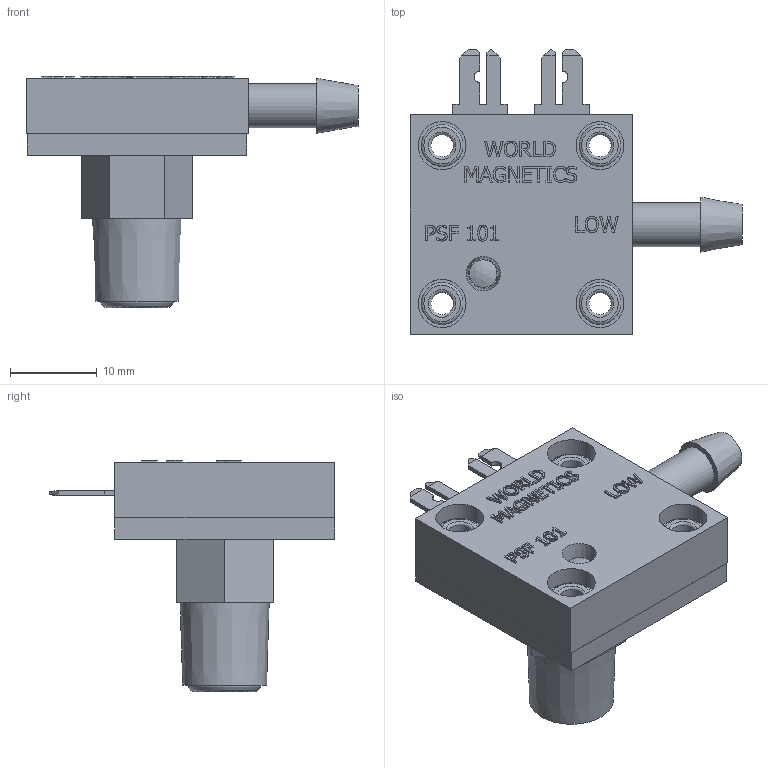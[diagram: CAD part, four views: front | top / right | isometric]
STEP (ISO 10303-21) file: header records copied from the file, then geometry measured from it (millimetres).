
FILE_DESCRIPTION((''),'2;1');
FILE_NAME('G:\DRAWINGS\SWITCH\INVENTOR DRAWINGS\WORLD MAGNETICS SWITCH\WM SALES STP FILES\864X.stp','2011-06-14T10:08:37',('dale'),(''),'Autodesk Inventor 2009','Autodesk Inventor 2009','');
FILE_SCHEMA(('AUTOMOTIVE_DESIGN { 1 0 10303 214 1 1 1 1 }'));
Length unit declared in the file: inch
Products named in the file (7): 864X; 60331-STP; 60094-STP; 60093-STP; 60943-STP; 60193 - .251 THK ROLLED; 60099-STP
Assembly tree (9 placements, depth 2):
  864X
    60331-STP
    60094-STP
    60093-STP
    60943-STP
    60193 - .251 THK ROLLED  x4
    60099-STP
Bounding box: 38.35 x 32.94 x 26.72 mm (x, y, z)
Volume: 7187.9 mm3; surface area: 5948.1 mm2
Topology: 9 solids, 9 shells, 589 faces, 1480 edges, 976 vertices
Faces by surface type: plane 357, bspline 182, cylinder 28, torus 16, cone 5, sphere 1
Full cylindrical faces by diameter (mm): 1.577 x1, 2.362 x2, 2.565 x4, 3.073 x4, 3.175 x1, 4.572 x4, 4.826 x4, 5.08 x5
Entity records: 17957 total; most frequent: CARTESIAN_POINT 5693, ORIENTED_EDGE 2682, DIRECTION 1894, EDGE_CURVE 1341, VECTOR 978, LINE 978, VERTEX_POINT 916, EDGE_LOOP 646
